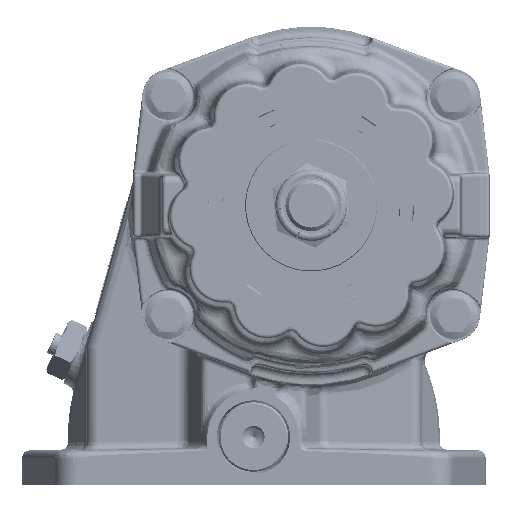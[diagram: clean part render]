
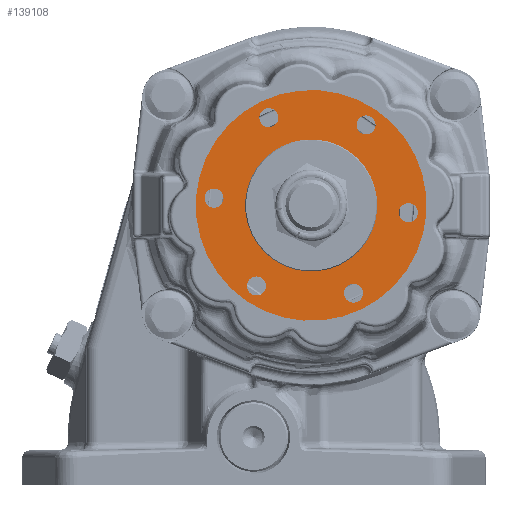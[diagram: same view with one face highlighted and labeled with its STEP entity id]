
A CAD part, left-side view. The second image highlights one B-rep face of the part: STEP entity #139108.
In plain terms, the highlighted planar face has unit normal (-1, 0, 0) as drawn and (1, 0, 0) by its records, which use the part's own axes.
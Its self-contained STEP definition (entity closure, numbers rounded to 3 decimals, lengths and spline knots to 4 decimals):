
#10841=FACE_BOUND('',#27079,.T.);
#10842=FACE_BOUND('',#27080,.T.);
#10843=FACE_BOUND('',#27081,.T.);
#10844=FACE_BOUND('',#27082,.T.);
#10845=FACE_BOUND('',#27083,.T.);
#10846=FACE_BOUND('',#27084,.T.);
#10847=FACE_BOUND('',#27085,.T.);
#12399=PLANE('',#149538);
#18801=FACE_OUTER_BOUND('',#27078,.T.);
#27078=EDGE_LOOP('',(#115453,#115454));
#27079=EDGE_LOOP('',(#115455));
#27080=EDGE_LOOP('',(#115456));
#27081=EDGE_LOOP('',(#115457));
#27082=EDGE_LOOP('',(#115458));
#27083=EDGE_LOOP('',(#115459));
#27084=EDGE_LOOP('',(#115460));
#27085=EDGE_LOOP('',(#115461,#115462));
#58779=CIRCLE('',#149493,0.1615);
#58780=CIRCLE('',#149495,0.1615);
#58781=CIRCLE('',#149497,0.1615);
#58782=CIRCLE('',#149499,0.1615);
#58783=CIRCLE('',#149501,0.1615);
#58784=CIRCLE('',#149503,0.1615);
#58804=CIRCLE('',#149536,1.9585);
#58805=CIRCLE('',#149537,1.9585);
#58806=CIRCLE('',#149539,1.1217);
#58807=CIRCLE('',#149540,1.1217);
#66938=VERTEX_POINT('',#253451);
#66939=VERTEX_POINT('',#253455);
#66940=VERTEX_POINT('',#253459);
#66941=VERTEX_POINT('',#253463);
#66942=VERTEX_POINT('',#253467);
#66943=VERTEX_POINT('',#253471);
#66962=VERTEX_POINT('',#253531);
#66963=VERTEX_POINT('',#253532);
#66964=VERTEX_POINT('',#253537);
#66965=VERTEX_POINT('',#253538);
#83892=EDGE_CURVE('',#66938,#66938,#58779,.T.);
#83894=EDGE_CURVE('',#66939,#66939,#58780,.T.);
#83896=EDGE_CURVE('',#66940,#66940,#58781,.T.);
#83898=EDGE_CURVE('',#66941,#66941,#58782,.T.);
#83900=EDGE_CURVE('',#66942,#66942,#58783,.T.);
#83902=EDGE_CURVE('',#66943,#66943,#58784,.T.);
#83930=EDGE_CURVE('',#66962,#66963,#58804,.T.);
#83931=EDGE_CURVE('',#66963,#66962,#58805,.T.);
#83933=EDGE_CURVE('',#66964,#66965,#58806,.T.);
#83934=EDGE_CURVE('',#66965,#66964,#58807,.T.);
#115453=ORIENTED_EDGE('',*,*,#83930,.T.);
#115454=ORIENTED_EDGE('',*,*,#83931,.T.);
#115455=ORIENTED_EDGE('',*,*,#83892,.T.);
#115456=ORIENTED_EDGE('',*,*,#83894,.T.);
#115457=ORIENTED_EDGE('',*,*,#83896,.T.);
#115458=ORIENTED_EDGE('',*,*,#83898,.T.);
#115459=ORIENTED_EDGE('',*,*,#83900,.T.);
#115460=ORIENTED_EDGE('',*,*,#83902,.T.);
#115461=ORIENTED_EDGE('',*,*,#83933,.F.);
#115462=ORIENTED_EDGE('',*,*,#83934,.F.);
#139108=ADVANCED_FACE('',(#18801,#10841,#10842,#10843,#10844,#10845,#10846,
#10847),#12399,.T.);
#149493=AXIS2_PLACEMENT_3D('',#253452,#171088,#171089);
#149495=AXIS2_PLACEMENT_3D('',#253456,#171093,#171094);
#149497=AXIS2_PLACEMENT_3D('',#253460,#171098,#171099);
#149499=AXIS2_PLACEMENT_3D('',#253464,#171103,#171104);
#149501=AXIS2_PLACEMENT_3D('',#253468,#171108,#171109);
#149503=AXIS2_PLACEMENT_3D('',#253472,#171113,#171114);
#149536=AXIS2_PLACEMENT_3D('',#253533,#171187,#171188);
#149537=AXIS2_PLACEMENT_3D('',#253534,#171189,#171190);
#149538=AXIS2_PLACEMENT_3D('',#253536,#171192,#171193);
#149539=AXIS2_PLACEMENT_3D('',#253539,#171194,#171195);
#149540=AXIS2_PLACEMENT_3D('',#253540,#171196,#171197);
#171088=DIRECTION('center_axis',(-1.,0.,0.));
#171089=DIRECTION('ref_axis',(0.,0.866,0.5));
#171093=DIRECTION('center_axis',(-1.,0.,0.));
#171094=DIRECTION('ref_axis',(0.,0.866,-0.5));
#171098=DIRECTION('center_axis',(-1.,0.,0.));
#171099=DIRECTION('ref_axis',(0.,0.,-1.));
#171103=DIRECTION('center_axis',(-1.,0.,0.));
#171104=DIRECTION('ref_axis',(0.,-0.866,-0.5));
#171108=DIRECTION('center_axis',(-1.,0.,0.));
#171109=DIRECTION('ref_axis',(0.,-0.866,0.5));
#171113=DIRECTION('center_axis',(-1.,0.,0.));
#171114=DIRECTION('ref_axis',(0.,0.,1.));
#171187=DIRECTION('center_axis',(1.,0.,0.));
#171188=DIRECTION('ref_axis',(0.,1.,0.));
#171189=DIRECTION('center_axis',(1.,0.,0.));
#171190=DIRECTION('ref_axis',(0.,1.,0.));
#171192=DIRECTION('center_axis',(1.,0.,0.));
#171193=DIRECTION('ref_axis',(0.,0.,-1.));
#171194=DIRECTION('center_axis',(1.,0.,0.));
#171195=DIRECTION('ref_axis',(0.,1.,0.));
#171196=DIRECTION('center_axis',(1.,0.,0.));
#171197=DIRECTION('ref_axis',(0.,1.,0.));
#253451=CARTESIAN_POINT('',(2.875,0.6869,-1.5127));
#253452=CARTESIAN_POINT('Origin',(2.875,0.8267,-1.432));
#253455=CARTESIAN_POINT('',(2.875,-0.9666,-1.3512));
#253456=CARTESIAN_POINT('Origin',(2.875,-0.8268,-1.432));
#253459=CARTESIAN_POINT('',(2.875,-1.6535,0.1615));
#253460=CARTESIAN_POINT('Origin',(2.875,-1.6535,0.));
#253463=CARTESIAN_POINT('',(2.875,-0.6869,1.5127));
#253464=CARTESIAN_POINT('Origin',(2.875,-0.8268,1.432));
#253467=CARTESIAN_POINT('',(2.875,0.9666,1.3512));
#253468=CARTESIAN_POINT('Origin',(2.875,0.8268,1.432));
#253471=CARTESIAN_POINT('',(2.875,1.6535,-0.1615));
#253472=CARTESIAN_POINT('Origin',(2.875,1.6535,0.));
#253531=CARTESIAN_POINT('',(2.875,1.9585,0.));
#253532=CARTESIAN_POINT('',(2.875,-1.9585,0.));
#253533=CARTESIAN_POINT('Origin',(2.875,0.,0.));
#253534=CARTESIAN_POINT('Origin',(2.875,0.,0.));
#253536=CARTESIAN_POINT('Origin',(2.875,1.5401,0.));
#253537=CARTESIAN_POINT('',(2.875,1.1217,0.));
#253538=CARTESIAN_POINT('',(2.875,-1.1217,0.));
#253539=CARTESIAN_POINT('Origin',(2.875,0.,0.));
#253540=CARTESIAN_POINT('Origin',(2.875,0.,0.));
